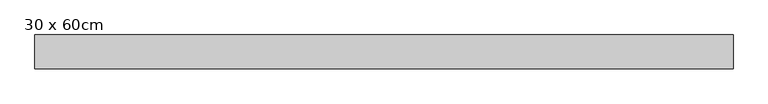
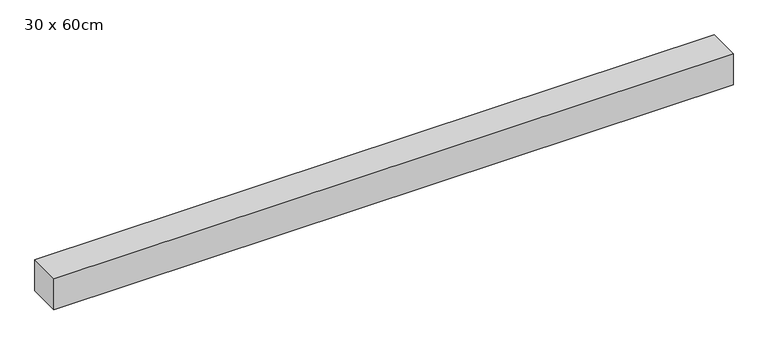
"""IFC4 building model written with IfcOpenShell, lengths in millimetres: member geometry, 混凝土樑-矩形 : 30 x 60cm."""

from ifc_helpers import new_model, si_unit, frame, origin, place, context, project, spatial, polyline, outline, extrude, source, transform, mapped, element, save


def member_30_x_60cm_b8fe3b9b(model_context):
    return source(origin(), model_context, "Body", "SweptSolid", [
        extrude(outline(polyline([(3101.3405293, 150.0), (3101.3405293, -150.0), (-3101.3405293, -150.0), (-3101.3405293, 150.0), (3101.3405293, 150.0)])), frame((0.0, 0.0, -150.0), z_axis=(0.0, 0.0, 1.0), x_axis=(1.0, 0.0, 0.0)), (0.0, 0.0, 1.0), 300.0),
    ])


if __name__ == "__main__":
    model = new_model("IFC4")
    model_context = context("Model", 3, world=origin())
    ifc_project = project(units=[si_unit("LENGTHUNIT", "METRE", prefix="MILLI")], contexts=[model_context])
    site = spatial("IfcSite", under=ifc_project)
    building = spatial("IfcBuilding", under=site)
    placement = place(None, origin())
    member_30_x_60cm_shape = member_30_x_60cm_b8fe3b9b(model_context)
    element("IfcMember", 1, ObjectType="混凝土樑-矩形 : 30 x 60cm", at=placement, inside=building, context=model_context, shape_type="MappedRepresentation", body=[
        mapped(member_30_x_60cm_shape, transform((0.0, 0.0, 0.0), x_axis=(1.0, 0.0, 0.0), y_axis=(0.0, 1.0, 0.0), z_axis=(0.0, 0.0, 1.0))),
    ])
    save(model, "model.ifc")
